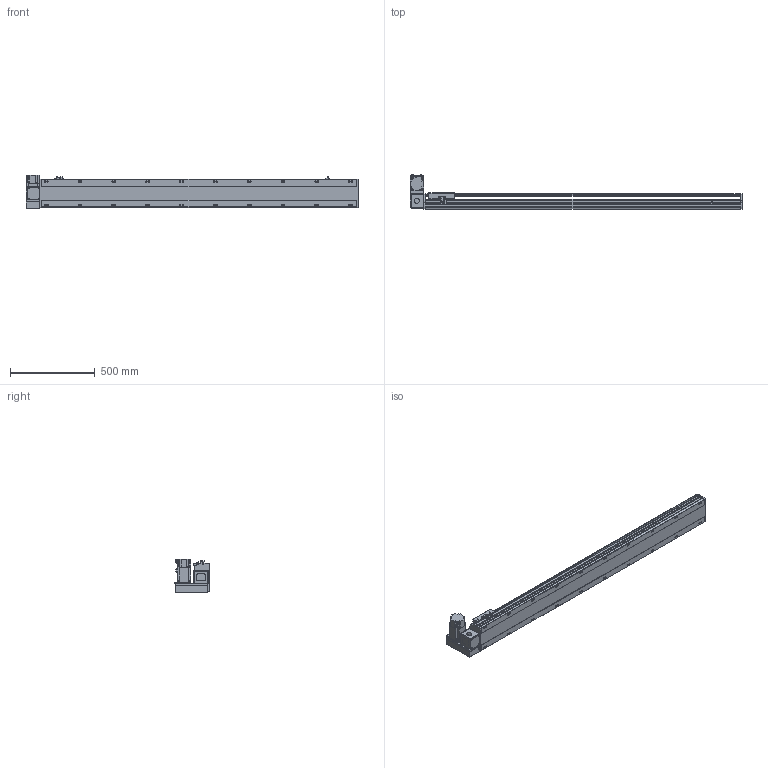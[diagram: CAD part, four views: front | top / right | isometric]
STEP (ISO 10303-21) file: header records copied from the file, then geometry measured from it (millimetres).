
FILE_DESCRIPTION( ( 'STEP AP214' ), '1' );
FILE_NAME( 'x:/temp/worker_4/temp/exporttempdir_2248_404_NAZUR/format_0/PBS170-P40-S1600-LU-T75-C1-N(0).stp', '2022-06-07T08:16:09', ( 'License CC BY-ND 4.0' ), ( 'CADENAS' ), ' ', 'PARTsolutions', ' ' );
FILE_SCHEMA( ( 'AUTOMOTIVE_DESIGN { 1 0 10303 214 1 1 1 1 }' ) );
Length unit declared in the file: millimetre
Products named in the file (7): PBS170-P40-S1600-LU-T75-C1-N(0); _PBS170-S1600()_body; _PBS170T-LU_motors; _T75-p1; _PBS170_sliser; _PBS170_plant; _PBS170_sensor
Assembly tree (8 placements, depth 2):
  PBS170-P40-S1600-LU-T75-C1-N(0)
    _PBS170-S1600()_body
    _PBS170T-LU_motors
    _T75-p1
    _PBS170_sliser
    _PBS170_plant
    _PBS170_sensor  x3
Bounding box: 1963 x 206 x 197.3 mm (x, y, z)
Volume: 15267845.6 mm3; surface area: 1955094.3 mm2
Topology: 8 solids, 8 shells, 1114 faces, 2955 edges, 1926 vertices
Faces by surface type: plane 699, cylinder 355, cone 50, sphere 8, torus 2
Full cylindrical faces by diameter (mm): 3.242 x4, 4 x2, 4.4 x4, 4.5 x6, 4.917 x4, 6 x9, 6.647 x28, 7 x2, 7.5 x4, 8 x8, 8.5 x20, 10 x4, 10.5 x20, 11 x2, 30 x2, 40 x1, 70 x1
Entity records: 41024 total; most frequent: CARTESIAN_POINT 6557, DIRECTION 5440, ORIENTED_EDGE 5148, EDGE_CURVE 2574, AXIS2_PLACEMENT_3D 1897, VERTEX_POINT 1778, LINE 1646, VECTOR 1646
